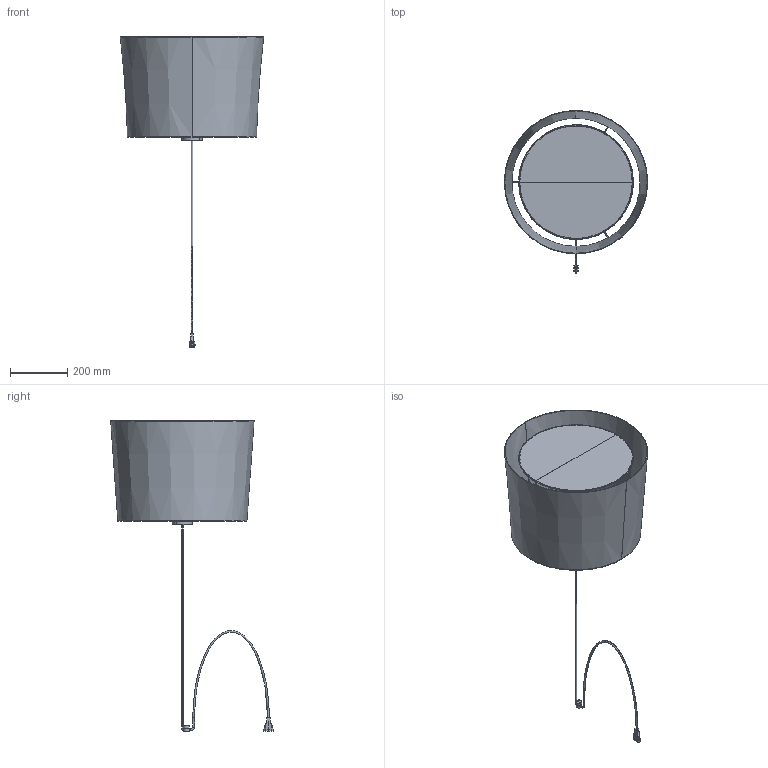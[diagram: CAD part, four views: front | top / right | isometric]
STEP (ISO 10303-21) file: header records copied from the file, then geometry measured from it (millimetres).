
FILE_DESCRIPTION(/* description */ (''),/* implementation_level */ '2;1');
FILE_NAME(/* name */ 'C:\Users\Franco Sartori E\Documents\FARO\DUPLICADO\Modelos\01_Digitalizados\2021\0_MAMBO_SAMBA_CONGA\03_Publicación\68604-54 ceiling.stp',/* time_stamp */ '2021-02-22T13:04:12+01:00',/* author */ ('Franco Sartori E'),/* organization */ (''),/* preprocessor_version */ 'ST-DEVELOPER v18.1',/* originating_system */ 'AutoCAD Mechanical',/* authorisation */ '');
FILE_SCHEMA (('AUTOMOTIVE_DESIGN { 1 0 10303 214 3 1 1 }'));
Length unit declared in the file: millimetre
Products named in the file (5): Product; 68604_Ceiling - LH-462584-_3D_; LAMP HOLDER - LH-462566-_3D_; 68604_Wall - LH-462585-_3D_; CONGA - SH-462631-_3D_
Assembly tree (4 placements, depth 2):
  Product
    68604_Ceiling - LH-462584-_3D_
    LAMP HOLDER - LH-462566-_3D_
    68604_Wall - LH-462585-_3D_
    CONGA - SH-462631-_3D_
Bounding box: 499.86 x 566.91 x 1082.5 mm (x, y, z)
Volume: 1258431.6 mm3; surface area: 2475716.8 mm2
Topology: 16 solids, 21 shells, 226 faces, 510 edges, 302 vertices
Faces by surface type: plane 91, cylinder 87, torus 30, cone 16, bspline 2
Entity records: 12290 total; most frequent: CARTESIAN_POINT 7312, DIRECTION 998, ORIENTED_EDGE 991, EDGE_CURVE 508, AXIS2_PLACEMENT_3D 386, VERTEX_POINT 302, EDGE_LOOP 229, LINE 226
